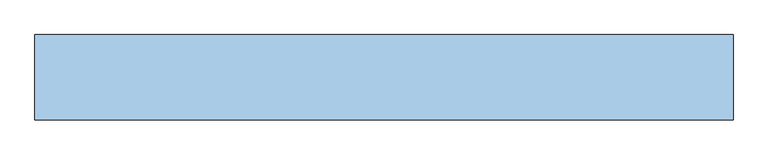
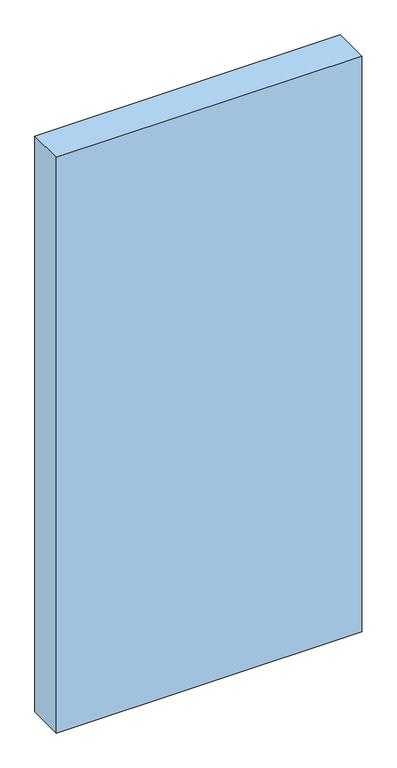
"""IFC4 building model written with IfcOpenShell, lengths in millimetres: window geometry, Dr_Проем-Четверти_об модель : ОК."""

from ifc_helpers import new_model, si_unit, frame, origin, place, context, project, spatial, polyline, outline, extrude, source, transform, mapped, element, save


def window_232d231f(model_context):
    return source(origin(), model_context, "Body", "SweptSolid", [
        extrude(outline(polyline([(955.0, 100.0), (955.0, -100.0), (-685.0, -100.0), (-685.0, 100.0), (955.0, 100.0)])), frame((0.0, 0.0, -100.0), z_axis=(0.0, 0.0, 1.0), x_axis=(1.0, 0.0, 0.0)), (0.0, 0.0, 1.0), 3270.0),
    ])


if __name__ == "__main__":
    model = new_model("IFC4")
    model_context = context("Model", 3, world=origin())
    ifc_project = project(units=[si_unit("LENGTHUNIT", "METRE", prefix="MILLI")], contexts=[model_context])
    site = spatial("IfcSite", under=ifc_project)
    building = spatial("IfcBuilding", under=site)
    placement = place(None, origin())
    window_shape = window_232d231f(model_context)
    element("IfcWindow", 1, ObjectType="Dr_Проем-Четверти_об модель : ОК", at=placement, inside=building, context=model_context, shape_type="MappedRepresentation", body=[
        mapped(window_shape, transform((0.0, 0.0, 0.0), x_axis=(1.0, 0.0, 0.0), y_axis=(0.0, 1.0, 0.0), z_axis=(0.0, 0.0, 1.0))),
    ])
    save(model, "model.ifc")
